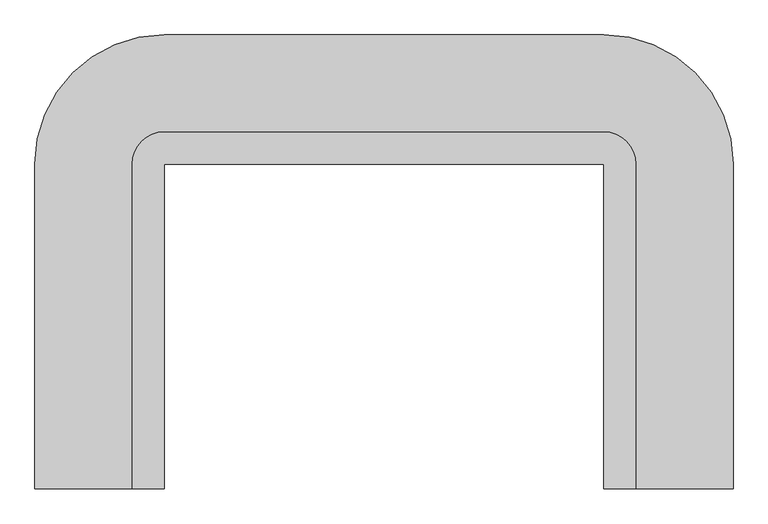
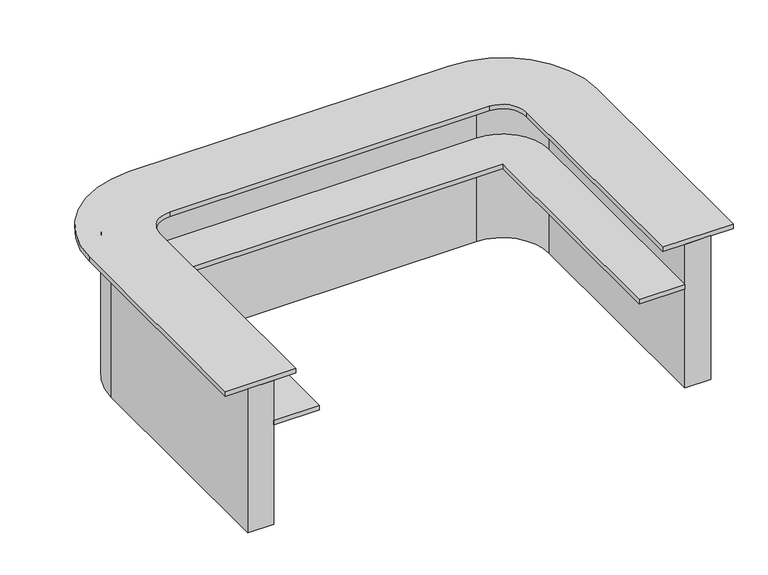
"""IFC4 building model written with IfcOpenShell, lengths in millimetres: furniture geometry, 営_受付カウンター_3D : 受付カウンター_3D."""

from ifc_helpers import new_model, si_unit, point, frame, frame_2d, origin, origin_with_axes, place, context, project, spatial, polyline, circle_curve, trimmed, segment, composite_curve, outline, extrude, source, transform, mapped, element, save


def furniture_925915f6(model_context):
    return source(origin(), model_context, "Body", "SweptSolid", [
        extrude(outline(composite_curve([segment(trimmed(circle_curve(frame_2d((5980.0, 17185.3416667)), 292.0), [point((5688.0, 17185.3416667))], [point((5980.0, 17477.3416667))], False, "CARTESIAN"), True, "CONTINUOUS"), segment(polyline([(5980.0, 17477.3416667), (8020.0, 17477.3416667)]), True, "CONTINUOUS"), segment(trimmed(circle_curve(frame_2d((8020.0, 17185.3416667)), 292.0), [point((8020.0, 17477.3416667))], [point((8312.0, 17185.3416667))], False, "CARTESIAN"), True, "CONTINUOUS"), segment(polyline([(8312.0, 17185.3416667), (8312.0, 15680.0), (8020.0, 15680.0), (8020.0, 17185.3416667), (5980.0, 17185.3416667), (5980.0, 15680.0), (5688.0, 15680.0), (5688.0, 17185.3416667)]), True, "CONTINUOUS")], self_intersect=False)), frame((0.0, 0.0, 670.0), z_axis=(0.0, 0.0, 1.0), x_axis=(1.0, 0.0, 0.0)), (0.0, 0.0, 1.0), 30.0),
        extrude(outline(composite_curve([segment(polyline([(5522.0, 15680.0), (5522.0, 17185.3416667)]), True, "CONTINUOUS"), segment(trimmed(circle_curve(frame_2d((5980.0, 17185.3416667)), 458.0), [point((5522.0, 17185.3416667))], [point((5980.0, 17643.3416667))], False, "CARTESIAN"), True, "CONTINUOUS"), segment(polyline([(5980.0, 17643.3416667), (8020.0, 17643.3416667)]), True, "CONTINUOUS"), segment(trimmed(circle_curve(frame_2d((8020.0, 17185.3416667)), 458.0), [point((8020.0, 17643.3416667))], [point((8478.0, 17185.3416667))], False, "CARTESIAN"), True, "CONTINUOUS"), segment(polyline([(8478.0, 17185.3416667), (8478.0, 15680.0), (8312.0, 15680.0), (8312.0, 17185.3416667)]), True, "CONTINUOUS"), segment(trimmed(circle_curve(frame_2d((8020.0, 17185.3416667)), 292.0), [point((8312.0, 17185.3416667))], [point((8020.0, 17477.3416667))], True, "CARTESIAN"), True, "CONTINUOUS"), segment(polyline([(8020.0, 17477.3416667), (5980.0, 17477.3416667)]), True, "CONTINUOUS"), segment(trimmed(circle_curve(frame_2d((5980.0, 17185.3416667)), 292.0), [point((5980.0, 17477.3416667))], [point((5688.0, 17185.3416667))], True, "CARTESIAN"), True, "CONTINUOUS"), segment(polyline([(5688.0, 17185.3416667), (5688.0, 15680.0), (5522.0, 15680.0)]), True, "CONTINUOUS")], self_intersect=False)), origin_with_axes(), (0.0, 0.0, 1.0), 970.0),
        extrude(outline(composite_curve([segment(polyline([(5380.0, 15680.0), (5380.0, 17185.3416667)]), True, "CONTINUOUS"), segment(trimmed(circle_curve(frame_2d((5980.0, 17185.3416667)), 600.0), [point((5380.0, 17185.3416667))], [point((5980.0, 17785.3416667))], False, "CARTESIAN"), True, "CONTINUOUS"), segment(polyline([(5980.0, 17785.3416667), (8020.0, 17785.3416667)]), True, "CONTINUOUS"), segment(trimmed(circle_curve(frame_2d((8020.0, 17185.3416667)), 600.0), [point((8020.0, 17785.3416667))], [point((8620.0, 17185.3416667))], False, "CARTESIAN"), True, "CONTINUOUS"), segment(polyline([(8620.0, 17185.3416667), (8620.0, 15680.0), (8170.0, 15680.0), (8170.0, 17185.3416667)]), True, "CONTINUOUS"), segment(trimmed(circle_curve(frame_2d((8020.0, 17185.3416667)), 150.0), [point((8170.0, 17185.3416667))], [point((8020.0, 17335.3416667))], True, "CARTESIAN"), True, "CONTINUOUS"), segment(polyline([(8020.0, 17335.3416667), (5980.0, 17335.3416667)]), True, "CONTINUOUS"), segment(trimmed(circle_curve(frame_2d((5980.0, 17185.3416667)), 150.0), [point((5980.0, 17335.3416667))], [point((5830.0, 17185.3416667))], True, "CARTESIAN"), True, "CONTINUOUS"), segment(polyline([(5830.0, 17185.3416667), (5830.0, 15680.0), (5380.0, 15680.0)]), True, "CONTINUOUS")], self_intersect=False)), frame((0.0, 0.0, 970.0), z_axis=(0.0, 0.0, 1.0), x_axis=(1.0, 0.0, 0.0)), (0.0, 0.0, 1.0), 30.0),
    ])


if __name__ == "__main__":
    model = new_model("IFC4")
    model_context = context("Model", 3, world=origin())
    ifc_project = project(units=[si_unit("LENGTHUNIT", "METRE", prefix="MILLI")], contexts=[model_context])
    site = spatial("IfcSite", under=ifc_project)
    building = spatial("IfcBuilding", under=site)
    placement = place(None, origin())
    furniture_shape = furniture_925915f6(model_context)
    element("IfcFurniture", 1, ObjectType="営_受付カウンター_3D : 受付カウンター_3D", at=placement, inside=building, context=model_context, shape_type="MappedRepresentation", body=[
        mapped(furniture_shape, transform((0.0, 0.0, 0.0), x_axis=(1.0, 0.0, 0.0), y_axis=(0.0, 1.0, 0.0), z_axis=(0.0, 0.0, 1.0))),
    ])
    save(model, "model.ifc")
